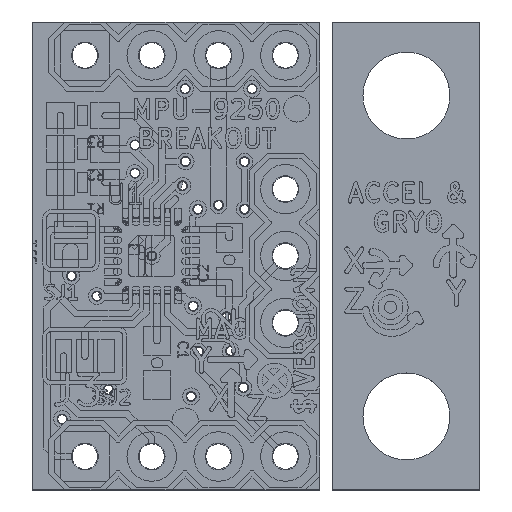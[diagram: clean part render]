
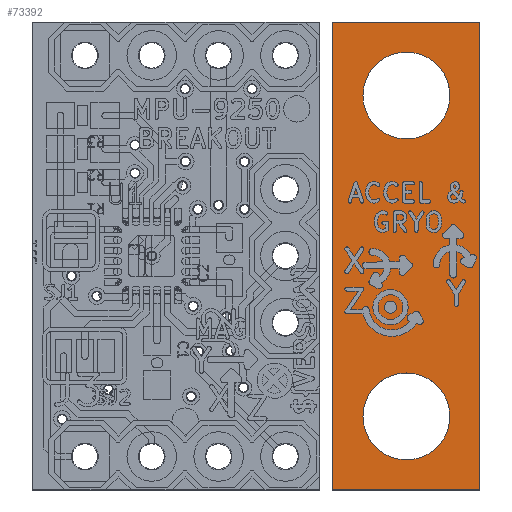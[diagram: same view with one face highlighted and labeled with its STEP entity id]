
A CAD part, top view. The second image highlights one B-rep face of the part: STEP entity #73392.
In plain terms, the highlighted planar face has unit normal (0, 0, 1).
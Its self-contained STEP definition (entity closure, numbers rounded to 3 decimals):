
#73258 = VERTEX_POINT('',#73259);
#73259 = CARTESIAN_POINT('',(157.01,-113.894,1.51));
#73265 = EDGE_CURVE('',#73258,#73266,#73268,.T.);
#73266 = VERTEX_POINT('',#73267);
#73267 = CARTESIAN_POINT('',(151.422,-113.894,1.51));
#73268 = LINE('',#73269,#73270);
#73269 = CARTESIAN_POINT('',(157.01,-113.894,1.51));
#73270 = VECTOR('',#73271,1.);
#73271 = DIRECTION('',(-1.,0.,0.));
#73298 = VERTEX_POINT('',#73299);
#73299 = CARTESIAN_POINT('',(157.01,-96.114,1.51));
#73305 = EDGE_CURVE('',#73298,#73258,#73306,.T.);
#73306 = LINE('',#73307,#73308);
#73307 = CARTESIAN_POINT('',(157.01,-96.114,1.51));
#73308 = VECTOR('',#73309,1.);
#73309 = DIRECTION('',(0.,-1.,0.));
#73327 = EDGE_CURVE('',#73266,#73328,#73330,.T.);
#73328 = VERTEX_POINT('',#73329);
#73329 = CARTESIAN_POINT('',(151.422,-96.114,1.51));
#73330 = LINE('',#73331,#73332);
#73331 = CARTESIAN_POINT('',(151.422,-113.894,1.51));
#73332 = VECTOR('',#73333,1.);
#73333 = DIRECTION('',(0.,1.,0.));
#73392 = ADVANCED_FACE('',(#73393,#73404,#73415),#73426,.T.);
#73393 = FACE_BOUND('',#73394,.T.);
#73394 = EDGE_LOOP('',(#73395,#73396,#73397,#73403));
#73395 = ORIENTED_EDGE('',*,*,#73265,.F.);
#73396 = ORIENTED_EDGE('',*,*,#73305,.F.);
#73397 = ORIENTED_EDGE('',*,*,#73398,.F.);
#73398 = EDGE_CURVE('',#73328,#73298,#73399,.T.);
#73399 = LINE('',#73400,#73401);
#73400 = CARTESIAN_POINT('',(151.422,-96.114,1.51));
#73401 = VECTOR('',#73402,1.);
#73402 = DIRECTION('',(1.,0.,0.));
#73403 = ORIENTED_EDGE('',*,*,#73327,.F.);
#73404 = FACE_BOUND('',#73405,.T.);
#73405 = EDGE_LOOP('',(#73406));
#73406 = ORIENTED_EDGE('',*,*,#73407,.T.);
#73407 = EDGE_CURVE('',#73408,#73408,#73410,.T.);
#73408 = VERTEX_POINT('',#73409);
#73409 = CARTESIAN_POINT('',(154.216,-112.751,1.51));
#73410 = CIRCLE('',#73411,1.651);
#73411 = AXIS2_PLACEMENT_3D('',#73412,#73413,#73414);
#73412 = CARTESIAN_POINT('',(154.216,-111.1,1.51));
#73413 = DIRECTION('',(-0.,0.,-1.));
#73414 = DIRECTION('',(0.,-1.,-0.));
#73415 = FACE_BOUND('',#73416,.T.);
#73416 = EDGE_LOOP('',(#73417));
#73417 = ORIENTED_EDGE('',*,*,#73418,.T.);
#73418 = EDGE_CURVE('',#73419,#73419,#73421,.T.);
#73419 = VERTEX_POINT('',#73420);
#73420 = CARTESIAN_POINT('',(154.216,-100.559,1.51));
#73421 = CIRCLE('',#73422,1.651);
#73422 = AXIS2_PLACEMENT_3D('',#73423,#73424,#73425);
#73423 = CARTESIAN_POINT('',(154.216,-98.908,1.51));
#73424 = DIRECTION('',(-0.,0.,-1.));
#73425 = DIRECTION('',(0.,-1.,-0.));
#73426 = PLANE('',#73427);
#73427 = AXIS2_PLACEMENT_3D('',#73428,#73429,#73430);
#73428 = CARTESIAN_POINT('',(0.,0.,1.51));
#73429 = DIRECTION('',(0.,0.,1.));
#73430 = DIRECTION('',(1.,0.,-0.));
